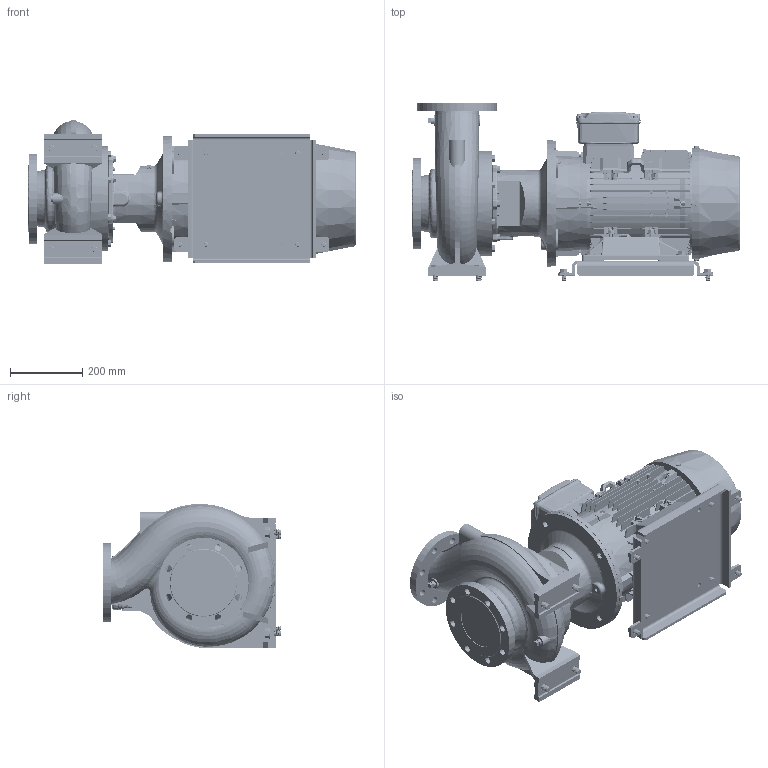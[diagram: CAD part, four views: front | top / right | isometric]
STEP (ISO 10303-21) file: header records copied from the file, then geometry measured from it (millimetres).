
FILE_DESCRIPTION (( 'STEP AP214' ), '1' );
FILE_NAME ('GSD4 100-200_11.0_(160ML)_W21.STEP', '2026-07-01T05:36:00', ( '' ), ( '' ), 'SwSTEP 2.0', 'SolidWorks 2024', '' );
FILE_SCHEMA (( 'AUTOMOTIVE_DESIGN' ));
Length unit declared in the file: millimetre
Products named in the file (12): Parametric bolt and washer_SFT-A303B; Parametric Flat Washer_M12; CGS11-5252; Parametric bolt and washer_SFT-A297B; GSD4 100-200_11.0_(160ML)_W21; 160M_L_ALIE3_W21T_B35; Parametric bolt_SFT-A353B; 100-200-160M_L_ﾃﾞﾌｫﾙﾄ; Parametric bolt and washer_SFT-A353B; Parametric Flat Washer_M16; Parametric bolt_SFT-A297B; Parametric bolt_SFT-A303B
Assembly tree (21 placements, depth 3):
  GSD4 100-200_11.0_(160ML)_W21
    100-200-160M_L_ﾃﾞﾌｫﾙﾄ
    CGS11-5252
    Parametric bolt and washer_SFT-A353B  x4
      Parametric bolt_SFT-A353B
      Parametric Flat Washer_M16
    Parametric bolt and washer_SFT-A297B  x4
      Parametric bolt_SFT-A297B
      Parametric Flat Washer_M12
    Parametric bolt and washer_SFT-A303B  x4
      Parametric bolt_SFT-A303B
      Parametric Flat Washer_M12
    160M_L_ALIE3_W21T_B35
Bounding box: 910.3 x 496 x 399.79 mm (x, y, z)
Volume: 56148182.3 mm3; surface area: 3381489.7 mm2
Topology: 57 solids, 63 shells, 6370 faces, 16455 edges, 10638 vertices
Faces by surface type: plane 3773, cylinder 1286, cone 587, bspline 487, torus 221, sphere 16
Entity records: 252864 total; most frequent: CARTESIAN_POINT 116867, ORIENTED_EDGE 29886, DIRECTION 25080, EDGE_CURVE 14943, VERTEX_POINT 9669, LINE 9498, VECTOR 9498, AXIS2_PLACEMENT_3D 7791
